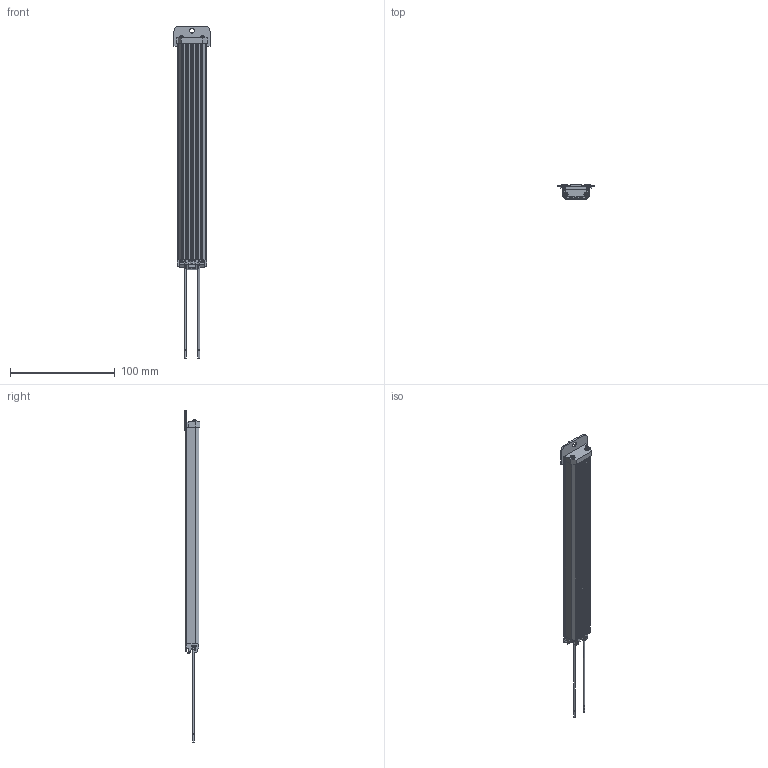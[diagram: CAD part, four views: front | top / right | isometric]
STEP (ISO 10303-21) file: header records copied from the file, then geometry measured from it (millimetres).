
FILE_DESCRIPTION(/* description */ ('Unknown'),/* implementation_level */ '2;1');
FILE_NAME(/* name */ '020-515-07',/* time_stamp */ '2023-07-12T18:40:51+02:00',/* author */ ('Unknown'),/* organization */ ('Unknown'),/* preprocessor_version */ 'ST-DEVELOPER v16.7',/* originating_system */ 'Solid Edge',/* authorisation */ 'Unknown');
FILE_SCHEMA (('AUTOMOTIVE_DESIGN {1 0 10303 214 3 1 1}'));
Products named in the file (13): 020-515-07; 020-50H-05; 020-50C-08; 01V-Q0F-01; 020-50G-02; 020-50D-06; 01V-N97-07; 020-005-05; 01V-N97-03; 022-W00-04; 020-U0A-0Q; 020-U0D-07; 01Z-M00-05
Assembly tree (40 placements, depth 4):
  020-515-07
    020-50H-05
    020-50C-08
    01V-Q0F-01  x4
    020-50G-02
    020-50D-06
    01V-N97-07
      020-005-05  x10
      01V-N97-03
      022-W00-04  x15
      020-U0A-0Q  x2
        020-U0D-07
    01Z-M00-05  x2
Bounding box: 34.4 x 15.15 x 316.35 mm (x, y, z)
Volume: 39386.7 mm3; surface area: 50286.6 mm2
Topology: 38 solids, 38 shells, 4108 faces, 12137 edges, 8151 vertices
Faces by surface type: plane 2657, cylinder 981, bspline 289, sphere 164, torus 12, cone 5
Full cylindrical faces by diameter (mm): 0.8 x2, 1 x1, 1.65 x8, 2 x8, 2.2 x4, 4 x4, 4.5 x1
Entity records: 75744 total; most frequent: CARTESIAN_POINT 20964, ORIENTED_EDGE 9796, DIRECTION 6984, EDGE_CURVE 4898, VERTEX_POINT 3297, LINE 2906, VECTOR 2906, EDGE_LOOP 2133
